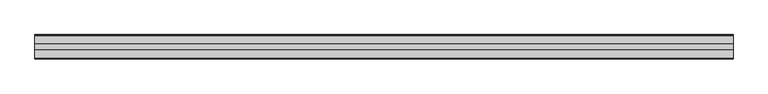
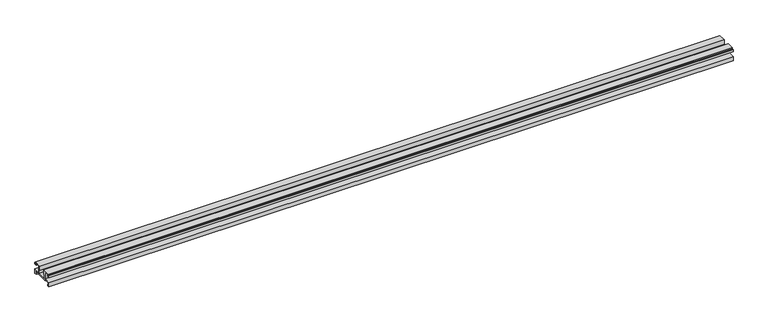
"""IFC4 building model written with IfcOpenShell, lengths in millimetres: proxy geometry, Weiku - Montante - Acoplamento vidro : Weiku - Montante - Acoplamento vidro."""

from ifc_helpers import new_model, si_unit, frame, origin, place, context, project, spatial, polyline, outline, extrude, source, transform, mapped, element, save


def generic_models_0ca6b693(model_context):
    return source(origin(), model_context, "Body", "SweptSolid", [
        extrude(outline(polyline([(35.405, 5.1494), (12.495, 5.1494), (12.495, 6.8004), (2.159, 6.8004), (2.159, 2.6094), (4.0216, 2.6094), (4.0216, 0.0), (-0.0014508, 0.0), (-0.0014508, 8.79), (12.954, 8.79), (12.954, 23.3104), (4.3603, 23.3104), (4.3603, 19.204), (0.0, 19.204), (0.0, 22.8024), (0.9736, 22.8024), (0.9736, 20.3894), (3.175, 20.3894), (3.175, 23.9454), (2.3735496, 23.9454), (2.3735496, 25.3), (17.4836, 25.3), (17.4836, 16.283), (15.4516, 16.283), (15.4516, 8.8), (32.4484, 8.8), (32.4484, 16.283), (30.4164, 16.283), (30.4164, 25.3), (45.5264504, 25.3), (45.5264504, 23.9454), (44.725, 23.9454), (44.725, 20.3894), (46.9264, 20.3894), (46.9264, 22.8024), (47.9, 22.8024), (47.9, 19.204), (43.5397, 19.204), (43.5397, 23.3104), (34.946, 23.3104), (34.946, 8.79), (47.9014508, 8.79), (47.9014508, 0.0), (43.8784, 0.0), (43.8784, 2.6094), (45.741, 2.6094), (45.741, 6.8004), (35.405, 6.8004), (35.405, 5.1494)])), frame((-682.8166667, 0.0, 0.0), z_axis=(1.0, 0.0, 0.0), x_axis=(0.0, 1.0, 0.0)), (0.0, 0.0, 1.0), 1365.6333333),
    ])


if __name__ == "__main__":
    model = new_model("IFC4")
    model_context = context("Model", 3, world=origin())
    ifc_project = project(units=[si_unit("LENGTHUNIT", "METRE", prefix="MILLI")], contexts=[model_context])
    site = spatial("IfcSite", under=ifc_project)
    building = spatial("IfcBuilding", under=site)
    placement = place(None, origin())
    generic_models_shape = generic_models_0ca6b693(model_context)
    element("IfcBuildingElementProxy", 1, Name="Weiku - Montante - Acoplamento vidro : Weiku - Montante - Acoplamento vidro", ObjectType="Weiku - Montante - Acoplamento vidro : Weiku - Montante - Acoplamento vidro", at=placement, inside=building, context=model_context, shape_type="MappedRepresentation", body=[
        mapped(generic_models_shape, transform((0.0, 0.0, 0.0), x_axis=(1.0, 0.0, 0.0), y_axis=(0.0, 1.0, 0.0), z_axis=(0.0, 0.0, 1.0))),
    ])
    save(model, "model.ifc")
